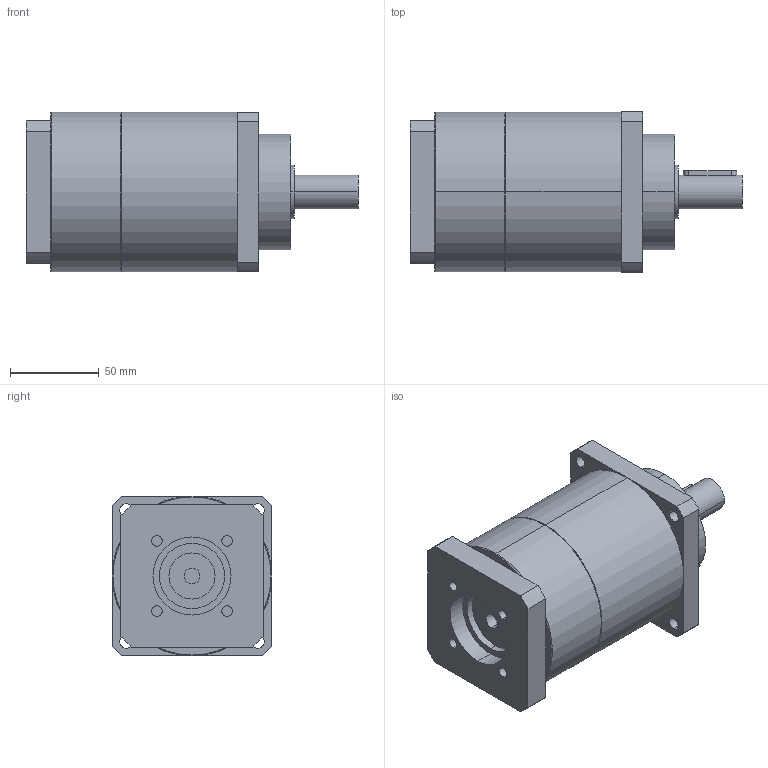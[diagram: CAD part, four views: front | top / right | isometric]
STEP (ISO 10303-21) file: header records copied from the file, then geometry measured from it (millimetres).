
FILE_DESCRIPTION(('CoCreate Modeling STEP Export'),'2;1');
FILE_NAME('GPT90_ig-9-12-16-20-25-28-35-40-50-70-100_19_B5T_9_P31.stp','2015-02-04T11:34:01',(''),(''),'CoCreate Modeling STEP processor for AP214 (Solid Model)','CoCreate Modeling 16.00C 25-Feb-2009 (C) Parametric Technology GmbH','');
FILE_SCHEMA(('AUTOMOTIVE_DESIGN { 1 0 10303 214 1 1 1 1 }'));
Length unit declared in the file: millimetre
Products named in the file (2): GPT90_ig-9-12-16-20-25-28-35-40-50-70-100_19_B5T_9_P31
Assembly tree (1 placements, depth 2):
  GPT90_ig-9-12-16-20-25-28-35-40-50-70-100_19_B5T_9_P31
    GPT90_ig-9-12-16-20-25-28-35-40-50-70-100_19_B5T_9_P31
Bounding box: 187 x 90 x 90 mm (x, y, z)
Volume: 900939.7 mm3; surface area: 66906.3 mm2
Topology: 1 solids, 1 shells, 88 faces, 221 edges, 148 vertices
Faces by surface type: cylinder 46, plane 38, cone 4
Entity records: 2699 total; most frequent: CARTESIAN_POINT 754, ORIENTED_EDGE 442, DIRECTION 330, EDGE_CURVE 221, VERTEX_POINT 148, AXIS2_PLACEMENT_3D 121, EDGE_LOOP 109, VECTOR 88
